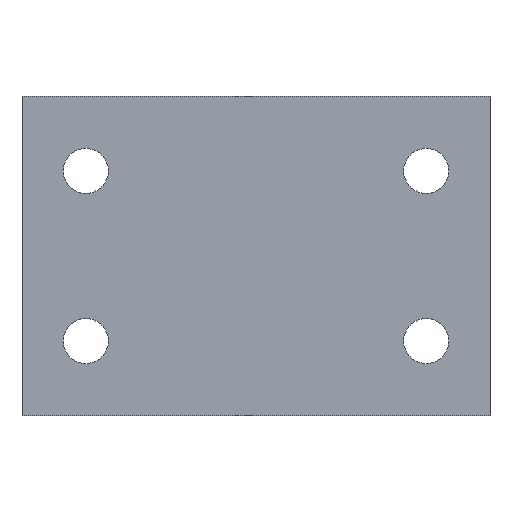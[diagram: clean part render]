
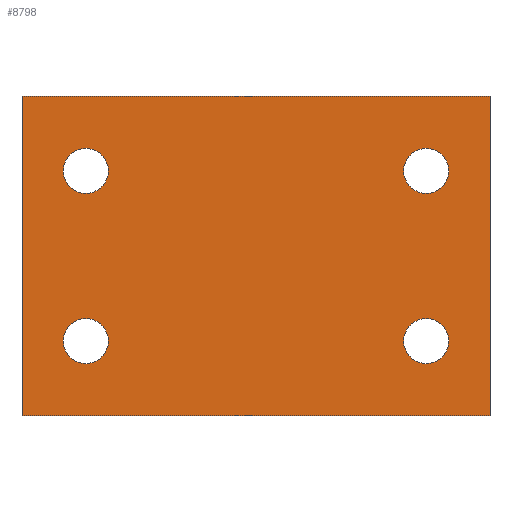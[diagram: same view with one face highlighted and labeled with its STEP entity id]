
A CAD part, front view. The second image highlights one B-rep face of the part: STEP entity #8798.
In plain terms, the highlighted planar face has unit normal (0, -1, 0).
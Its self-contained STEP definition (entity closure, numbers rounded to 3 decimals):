
#84 = CARTESIAN_POINT ( 'NONE',  ( 101.6, 0., 50.8 ) ) ;
#297 = VERTEX_POINT ( 'NONE', #5809 ) ;
#469 = ORIENTED_EDGE ( 'NONE', *, *, #8623, .T. ) ;
#549 = ORIENTED_EDGE ( 'NONE', *, *, #4563, .T. ) ;
#694 = DIRECTION ( 'NONE',  ( 0., 0., 1. ) ) ;
#981 = DIRECTION ( 'NONE',  ( 0., 0., -1. ) ) ;
#1143 = DIRECTION ( 'NONE',  ( 0., 0., 1. ) ) ;
#1243 = AXIS2_PLACEMENT_3D ( 'NONE', #8285, #3570, #9788 ) ;
#1262 = EDGE_CURVE ( 'NONE', #297, #1616, #7073, .T. ) ;
#1268 = DIRECTION ( 'NONE',  ( 0., 1., 0. ) ) ;
#1292 = FACE_BOUND ( 'NONE', #2534, .T. ) ;
#1317 = CIRCLE ( 'NONE', #9856, 13.45 ) ;
#1585 = VERTEX_POINT ( 'NONE', #10767 ) ;
#1607 = ORIENTED_EDGE ( 'NONE', *, *, #4468, .T. ) ;
#1616 = VERTEX_POINT ( 'NONE', #8958 ) ;
#1901 = ORIENTED_EDGE ( 'NONE', *, *, #1262, .F. ) ;
#1980 = VERTEX_POINT ( 'NONE', #6250 ) ;
#2079 = AXIS2_PLACEMENT_3D ( 'NONE', #5698, #10182, #4888 ) ;
#2295 = VECTOR ( 'NONE', #981, 1000. ) ;
#2307 = EDGE_CURVE ( 'NONE', #3954, #10557, #9725, .T. ) ;
#2321 = ORIENTED_EDGE ( 'NONE', *, *, #8205, .T. ) ;
#2419 = CIRCLE ( 'NONE', #10587, 13.45 ) ;
#2534 = EDGE_LOOP ( 'NONE', ( #469, #3097 ) ) ;
#2686 = CARTESIAN_POINT ( 'NONE',  ( -101.6, 0., -37.35 ) ) ;
#2826 = ORIENTED_EDGE ( 'NONE', *, *, #9381, .F. ) ;
#2874 = AXIS2_PLACEMENT_3D ( 'NONE', #10312, #9217, #4792 ) ;
#2926 = FACE_OUTER_BOUND ( 'NONE', #6018, .T. ) ;
#3097 = ORIENTED_EDGE ( 'NONE', *, *, #2307, .T. ) ;
#3129 = DIRECTION ( 'NONE',  ( 0., 0., 1. ) ) ;
#3357 = DIRECTION ( 'NONE',  ( -1., 0., 0. ) ) ;
#3462 = DIRECTION ( 'NONE',  ( 0., 1., 0. ) ) ;
#3533 = CARTESIAN_POINT ( 'NONE',  ( 101.6, 0., -64.25 ) ) ;
#3554 = VECTOR ( 'NONE', #8353, 1000. ) ;
#3570 = DIRECTION ( 'NONE',  ( 0., 1., 0. ) ) ;
#3660 = EDGE_LOOP ( 'NONE', ( #4614, #1607 ) ) ;
#3818 = CARTESIAN_POINT ( 'NONE',  ( -101.6, 0., 64.25 ) ) ;
#3851 = DIRECTION ( 'NONE',  ( 0., 0., 1. ) ) ;
#3954 = VERTEX_POINT ( 'NONE', #9030 ) ;
#4043 = CARTESIAN_POINT ( 'NONE',  ( -101.6, 0., -50.8 ) ) ;
#4079 = AXIS2_PLACEMENT_3D ( 'NONE', #10842, #7464, #3851 ) ;
#4314 = CARTESIAN_POINT ( 'NONE',  ( -139.7, 0., 95.25 ) ) ;
#4468 = EDGE_CURVE ( 'NONE', #1980, #6713, #6517, .T. ) ;
#4563 = EDGE_CURVE ( 'NONE', #9522, #10301, #5046, .T. ) ;
#4610 = FACE_BOUND ( 'NONE', #10337, .T. ) ;
#4614 = ORIENTED_EDGE ( 'NONE', *, *, #7562, .T. ) ;
#4720 = DIRECTION ( 'NONE',  ( 0., 1., 0. ) ) ;
#4792 = DIRECTION ( 'NONE',  ( 0., 0., 1. ) ) ;
#4799 = CARTESIAN_POINT ( 'NONE',  ( -139.7, 0., -95.25 ) ) ;
#4888 = DIRECTION ( 'NONE',  ( 0., 0., 1. ) ) ;
#5046 = CIRCLE ( 'NONE', #2079, 13.45 ) ;
#5171 = VECTOR ( 'NONE', #3357, 1000. ) ;
#5698 = CARTESIAN_POINT ( 'NONE',  ( -101.6, 0., 50.8 ) ) ;
#5702 = FACE_BOUND ( 'NONE', #3660, .T. ) ;
#5809 = CARTESIAN_POINT ( 'NONE',  ( 139.7, 0., 95.25 ) ) ;
#5953 = VERTEX_POINT ( 'NONE', #9491 ) ;
#6006 = EDGE_LOOP ( 'NONE', ( #2321, #549 ) ) ;
#6018 = EDGE_LOOP ( 'NONE', ( #1901, #10371, #9585, #2826 ) ) ;
#6149 = VERTEX_POINT ( 'NONE', #2686 ) ;
#6219 = EDGE_CURVE ( 'NONE', #6149, #5953, #1317, .T. ) ;
#6250 = CARTESIAN_POINT ( 'NONE',  ( 101.6, 0., 64.25 ) ) ;
#6517 = CIRCLE ( 'NONE', #10065, 13.45 ) ;
#6666 = AXIS2_PLACEMENT_3D ( 'NONE', #4043, #10973, #1143 ) ;
#6713 = VERTEX_POINT ( 'NONE', #8191 ) ;
#6948 = CARTESIAN_POINT ( 'NONE',  ( 101.6, 0., 50.8 ) ) ;
#7073 = LINE ( 'NONE', #10634, #2295 ) ;
#7109 = VERTEX_POINT ( 'NONE', #9815 ) ;
#7464 = DIRECTION ( 'NONE',  ( 0., 1., 0. ) ) ;
#7562 = EDGE_CURVE ( 'NONE', #6713, #1980, #2419, .T. ) ;
#7976 = CARTESIAN_POINT ( 'NONE',  ( -101.6, 0., 37.35 ) ) ;
#8030 = ORIENTED_EDGE ( 'NONE', *, *, #6219, .T. ) ;
#8191 = CARTESIAN_POINT ( 'NONE',  ( 101.6, 0., 37.35 ) ) ;
#8205 = EDGE_CURVE ( 'NONE', #10301, #9522, #11275, .T. ) ;
#8285 = CARTESIAN_POINT ( 'NONE',  ( -101.6, 0., 50.8 ) ) ;
#8353 = DIRECTION ( 'NONE',  ( 0., 0., 1. ) ) ;
#8623 = EDGE_CURVE ( 'NONE', #10557, #3954, #8898, .T. ) ;
#8798 = ADVANCED_FACE ( 'NONE', ( #2926, #4610, #10133, #5702, #1292 ), #10901, .F. ) ;
#8898 = CIRCLE ( 'NONE', #9449, 13.45 ) ;
#8958 = CARTESIAN_POINT ( 'NONE',  ( 139.7, 0., -95.25 ) ) ;
#9030 = CARTESIAN_POINT ( 'NONE',  ( 101.6, 0., -37.35 ) ) ;
#9140 = DIRECTION ( 'NONE',  ( 0., 0., 1. ) ) ;
#9167 = LINE ( 'NONE', #4799, #3554 ) ;
#9217 = DIRECTION ( 'NONE',  ( 0., 1., 0. ) ) ;
#9282 = CIRCLE ( 'NONE', #6666, 13.45 ) ;
#9298 = DIRECTION ( 'NONE',  ( 0., 1., 0. ) ) ;
#9381 = EDGE_CURVE ( 'NONE', #1616, #1585, #11332, .T. ) ;
#9449 = AXIS2_PLACEMENT_3D ( 'NONE', #10109, #1268, #10053 ) ;
#9491 = CARTESIAN_POINT ( 'NONE',  ( -101.6, 0., -64.25 ) ) ;
#9522 = VERTEX_POINT ( 'NONE', #3818 ) ;
#9531 = EDGE_CURVE ( 'NONE', #1585, #7109, #9167, .T. ) ;
#9547 = LINE ( 'NONE', #4314, #10781 ) ;
#9585 = ORIENTED_EDGE ( 'NONE', *, *, #9531, .F. ) ;
#9725 = CIRCLE ( 'NONE', #2874, 13.45 ) ;
#9788 = DIRECTION ( 'NONE',  ( 0., 0., 1. ) ) ;
#9815 = CARTESIAN_POINT ( 'NONE',  ( -139.7, 0., 95.25 ) ) ;
#9856 = AXIS2_PLACEMENT_3D ( 'NONE', #10837, #9298, #3129 ) ;
#10053 = DIRECTION ( 'NONE',  ( 0., 0., 1. ) ) ;
#10065 = AXIS2_PLACEMENT_3D ( 'NONE', #84, #4720, #9140 ) ;
#10109 = CARTESIAN_POINT ( 'NONE',  ( 101.6, 0., -50.8 ) ) ;
#10133 = FACE_BOUND ( 'NONE', #6006, .T. ) ;
#10169 = EDGE_CURVE ( 'NONE', #7109, #297, #9547, .T. ) ;
#10182 = DIRECTION ( 'NONE',  ( 0., 1., 0. ) ) ;
#10301 = VERTEX_POINT ( 'NONE', #7976 ) ;
#10312 = CARTESIAN_POINT ( 'NONE',  ( 101.6, 0., -50.8 ) ) ;
#10337 = EDGE_LOOP ( 'NONE', ( #10384, #8030 ) ) ;
#10371 = ORIENTED_EDGE ( 'NONE', *, *, #10169, .F. ) ;
#10384 = ORIENTED_EDGE ( 'NONE', *, *, #11253, .T. ) ;
#10425 = DIRECTION ( 'NONE',  ( 1., 0., 0. ) ) ;
#10451 = CARTESIAN_POINT ( 'NONE',  ( -139.7, 0., -95.25 ) ) ;
#10557 = VERTEX_POINT ( 'NONE', #3533 ) ;
#10587 = AXIS2_PLACEMENT_3D ( 'NONE', #6948, #3462, #694 ) ;
#10634 = CARTESIAN_POINT ( 'NONE',  ( 139.7, 0., -95.25 ) ) ;
#10767 = CARTESIAN_POINT ( 'NONE',  ( -139.7, 0., -95.25 ) ) ;
#10781 = VECTOR ( 'NONE', #10425, 1000. ) ;
#10837 = CARTESIAN_POINT ( 'NONE',  ( -101.6, 0., -50.8 ) ) ;
#10842 = CARTESIAN_POINT ( 'NONE',  ( 0., 0., 0. ) ) ;
#10901 = PLANE ( 'NONE',  #4079 ) ;
#10973 = DIRECTION ( 'NONE',  ( 0., 1., 0. ) ) ;
#11253 = EDGE_CURVE ( 'NONE', #5953, #6149, #9282, .T. ) ;
#11275 = CIRCLE ( 'NONE', #1243, 13.45 ) ;
#11332 = LINE ( 'NONE', #10451, #5171 ) ;
